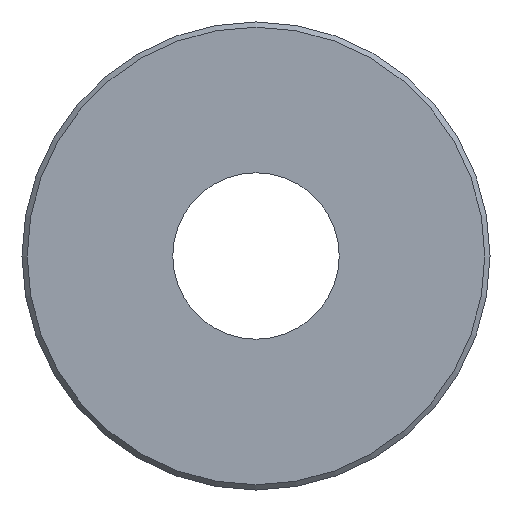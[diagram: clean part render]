
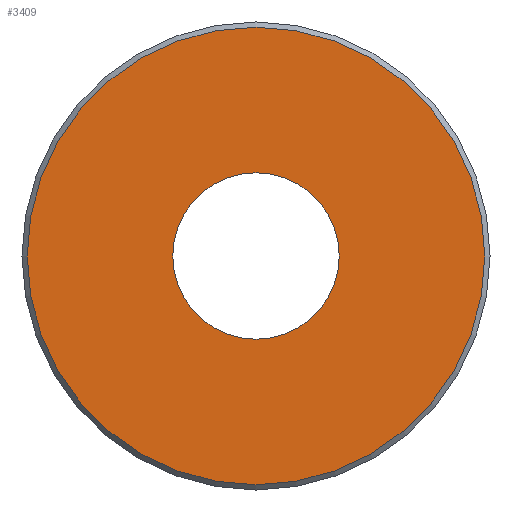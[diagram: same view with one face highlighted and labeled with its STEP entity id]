
A CAD part, left-side view. The second image highlights one B-rep face of the part: STEP entity #3409.
In plain terms, the highlighted planar face has unit normal (-1, 0, 0).
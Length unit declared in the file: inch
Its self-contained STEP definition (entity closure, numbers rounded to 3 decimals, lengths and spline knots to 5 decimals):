
#785=FACE_BOUND('',#1018,.T.);
#816=FACE_OUTER_BOUND('',#1017,.T.);
#1017=EDGE_LOOP('',(#2248));
#1018=EDGE_LOOP('',(#2249));
#1249=CIRCLE('',#3619,0.55);
#1250=CIRCLE('',#3620,0.2);
#1372=VERTEX_POINT('',#4704);
#1373=VERTEX_POINT('',#4706);
#1725=EDGE_CURVE('',#1372,#1372,#1249,.T.);
#1726=EDGE_CURVE('',#1373,#1373,#1250,.T.);
#2248=ORIENTED_EDGE('',*,*,#1725,.F.);
#2249=ORIENTED_EDGE('',*,*,#1726,.F.);
#3294=PLANE('',#3618);
#3409=ADVANCED_FACE('',(#816,#785),#3294,.F.);
#3618=AXIS2_PLACEMENT_3D('',#4703,#3886,#3887);
#3619=AXIS2_PLACEMENT_3D('',#4705,#3888,#3889);
#3620=AXIS2_PLACEMENT_3D('',#4707,#3890,#3891);
#3886=DIRECTION('center_axis',(1.,0.,0.));
#3887=DIRECTION('ref_axis',(0.,0.,-1.));
#3888=DIRECTION('center_axis',(1.,0.,0.));
#3889=DIRECTION('ref_axis',(0.,-1.,0.));
#3890=DIRECTION('center_axis',(-1.,0.,0.));
#3891=DIRECTION('ref_axis',(0.,0.,1.));
#4703=CARTESIAN_POINT('Origin',(-1.4875,0.,0.));
#4704=CARTESIAN_POINT('',(-1.4875,0.55,0.));
#4705=CARTESIAN_POINT('Origin',(-1.4875,0.,0.));
#4706=CARTESIAN_POINT('',(-1.4875,-0.2,0.));
#4707=CARTESIAN_POINT('Origin',(-1.4875,0.,0.));
